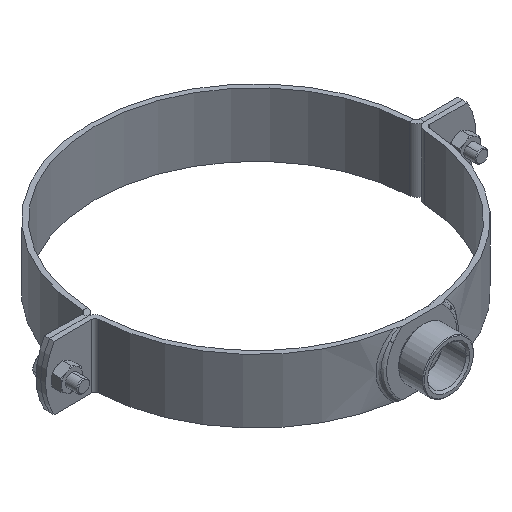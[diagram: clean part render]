
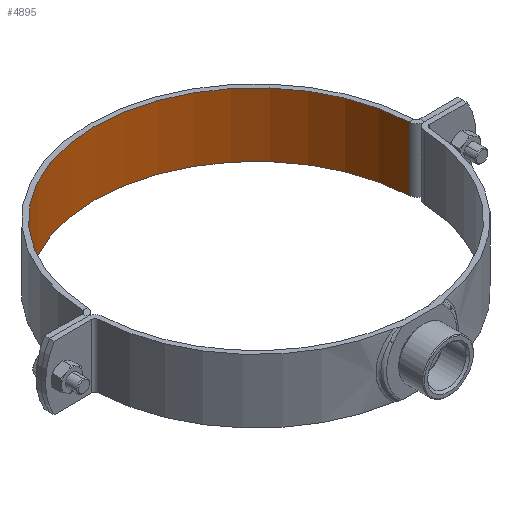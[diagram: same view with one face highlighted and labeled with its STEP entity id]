
A CAD part, isometric view. The second image highlights one B-rep face of the part: STEP entity #4895.
In plain terms, the highlighted cylindrical face has radius 101 mm (diameter 202 mm), a partial arc.
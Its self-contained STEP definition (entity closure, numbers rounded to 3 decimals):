
#154 = VERTEX_POINT ( 'NONE', #1745 ) ;
#280 = FACE_OUTER_BOUND ( 'NONE', #5618, .T. ) ;
#385 = VERTEX_POINT ( 'NONE', #2558 ) ;
#478 = CARTESIAN_POINT ( 'NONE',  ( 0., 0., 20. ) ) ;
#512 = EDGE_CURVE ( 'NONE', #5067, #385, #1712, .T. ) ;
#1103 = VECTOR ( 'NONE', #5461, 1000. ) ;
#1116 = ORIENTED_EDGE ( 'NONE', *, *, #3415, .T. ) ;
#1346 = CARTESIAN_POINT ( 'NONE',  ( 0., 0., -20. ) ) ;
#1519 = LINE ( 'NONE', #3423, #4445 ) ;
#1683 = DIRECTION ( 'NONE',  ( -1., 0., 0. ) ) ;
#1712 = LINE ( 'NONE', #3622, #1103 ) ;
#1745 = CARTESIAN_POINT ( 'NONE',  ( 100.888, -4.764, 20. ) ) ;
#1785 = CIRCLE ( 'NONE', #5236, 101. ) ;
#2159 = CYLINDRICAL_SURFACE ( 'NONE', #4847, 101. ) ;
#2221 = ORIENTED_EDGE ( 'NONE', *, *, #5755, .F. ) ;
#2381 = DIRECTION ( 'NONE',  ( 0., 0., 1. ) ) ;
#2558 = CARTESIAN_POINT ( 'NONE',  ( -100.888, -4.764, -20. ) ) ;
#3252 = DIRECTION ( 'NONE',  ( 0., 0., 1. ) ) ;
#3415 = EDGE_CURVE ( 'NONE', #5067, #154, #3488, .T. ) ;
#3423 = CARTESIAN_POINT ( 'NONE',  ( 100.888, -4.764, 20. ) ) ;
#3488 = CIRCLE ( 'NONE', #3489, 101. ) ;
#3489 = AXIS2_PLACEMENT_3D ( 'NONE', #478, #2381, #4274 ) ;
#3622 = CARTESIAN_POINT ( 'NONE',  ( -100.888, -4.764, 20. ) ) ;
#3632 = VERTEX_POINT ( 'NONE', #5096 ) ;
#3757 = ORIENTED_EDGE ( 'NONE', *, *, #512, .F. ) ;
#4050 = CARTESIAN_POINT ( 'NONE',  ( 0., 0., 20. ) ) ;
#4274 = DIRECTION ( 'NONE',  ( 1., 0., 0. ) ) ;
#4402 = EDGE_CURVE ( 'NONE', #154, #3632, #1519, .T. ) ;
#4445 = VECTOR ( 'NONE', #5282, 1000. ) ;
#4772 = ORIENTED_EDGE ( 'NONE', *, *, #4402, .T. ) ;
#4847 = AXIS2_PLACEMENT_3D ( 'NONE', #4050, #5858, #1683 ) ;
#4895 = ADVANCED_FACE ( 'NONE', ( #280 ), #2159, .F. ) ;
#5065 = CARTESIAN_POINT ( 'NONE',  ( -100.888, -4.764, 20. ) ) ;
#5067 = VERTEX_POINT ( 'NONE', #5065 ) ;
#5096 = CARTESIAN_POINT ( 'NONE',  ( 100.888, -4.764, -20. ) ) ;
#5126 = DIRECTION ( 'NONE',  ( 1., 0., 0. ) ) ;
#5236 = AXIS2_PLACEMENT_3D ( 'NONE', #1346, #3252, #5126 ) ;
#5282 = DIRECTION ( 'NONE',  ( 0., 0., -1. ) ) ;
#5461 = DIRECTION ( 'NONE',  ( 0., 0., -1. ) ) ;
#5618 = EDGE_LOOP ( 'NONE', ( #2221, #3757, #1116, #4772 ) ) ;
#5755 = EDGE_CURVE ( 'NONE', #385, #3632, #1785, .T. ) ;
#5858 = DIRECTION ( 'NONE',  ( 0., 0., -1. ) ) ;
